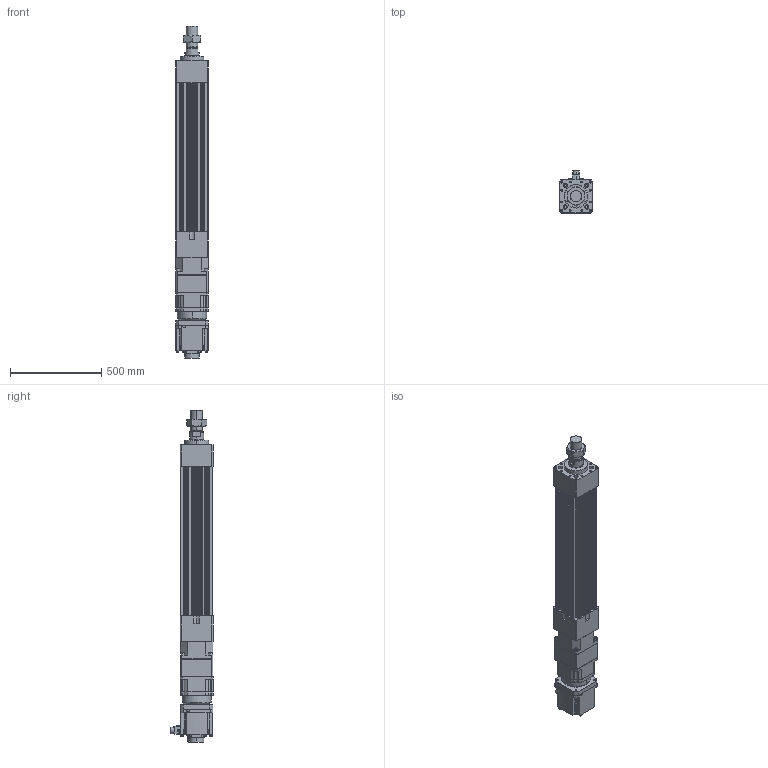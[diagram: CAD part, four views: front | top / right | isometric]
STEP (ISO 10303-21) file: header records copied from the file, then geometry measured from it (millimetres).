
FILE_DESCRIPTION (( 'STEP AP203' ), '1' );
FILE_NAME ('HES180HS-S500-W050G00-M.STEP', '2023-02-01T09:47:22', ( 'tms' ), ( '' ), 'SwSTEP 2.0', 'SolidWorks 2013', '' );
FILE_SCHEMA (( 'CONFIG_CONTROL_DESIGN' ));
Length unit declared in the file: millimetre
Products named in the file (9): AB180-003[HG-SR702B]; HG-SR502; HES180HS-S500-W050G00-M; M64X2.0P; P1301600001; P0403600401; AB1801; HES180-S500-G180; HES180 ROD M ST500
Assembly tree (8 placements, depth 3):
  HES180HS-S500-W050G00-M
    HES180-S500-G180
    HES180 ROD M ST500
    M64X2.0P
    AB180-003[HG-SR702B]
      AB1801
      P1301600001
      P0403600401
    HG-SR502
Bounding box: 180 x 230.85 x 1817 mm (x, y, z)
Volume: 26935844.6 mm3; surface area: 2543777.2 mm2
Topology: 4 solids, 23 shells, 1534 faces, 3945 edges, 2546 vertices
Faces by surface type: cylinder 693, plane 600, cone 174, bspline 63, torus 4
Entity records: 55246 total; most frequent: CARTESIAN_POINT 16431, DIRECTION 8177, ORIENTED_EDGE 7750, EDGE_CURVE 3899, AXIS2_PLACEMENT_3D 3072, VERTEX_POINT 2546, LINE 2033, VECTOR 2033
